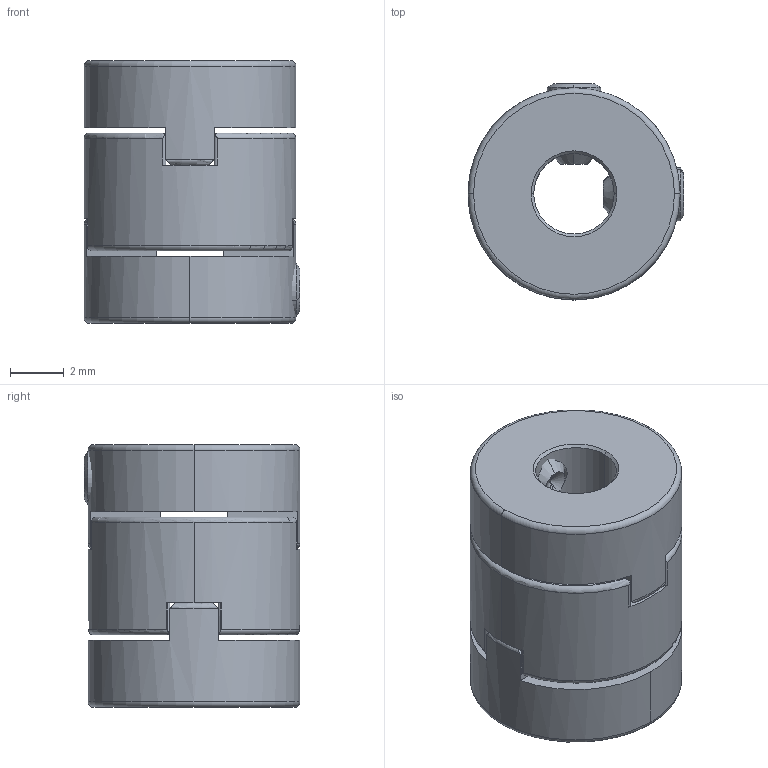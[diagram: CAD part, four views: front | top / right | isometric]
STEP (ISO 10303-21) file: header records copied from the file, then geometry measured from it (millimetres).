
FILE_DESCRIPTION (( 'STEP AP214' ), '1' );
FILE_NAME ('SOH-8 ASS''Y.STEP', '2016-02-05T05:14:00', ( '' ), ( '' ), 'SwSTEP 2.0', 'SolidWorks 2015', '' );
FILE_SCHEMA (( 'AUTOMOTIVE_DESIGN' ));
Length unit declared in the file: millimetre
Products named in the file (1): SOH-8 ASS''Y
Bounding box: 8.05 x 8.05 x 9.8 mm (x, y, z)
Surface area: 589.1 mm2 (no closed solid volume)
Topology: 0 solids, 5 shells, 102 faces, 296 edges, 196 vertices
Faces by surface type: plane 45, cylinder 28, cone 16, torus 13
Entity records: 4635 total; most frequent: CARTESIAN_POINT 909, DIRECTION 544, ORIENTED_EDGE 488, EDGE_CURVE 292, AXIS2_PLACEMENT_3D 199, VERTEX_POINT 196, VECTOR 146, LINE 146
